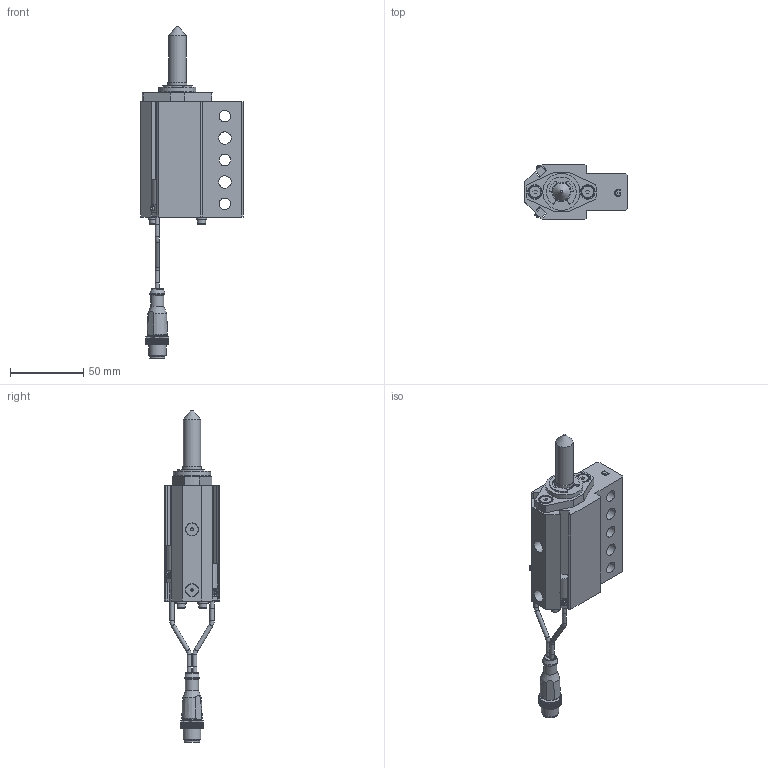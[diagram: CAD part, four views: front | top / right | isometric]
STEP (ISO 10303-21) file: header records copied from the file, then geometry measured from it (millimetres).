
FILE_DESCRIPTION(/* description */ ('NAAMS FLOATING MICRO PIN'),/* implementation_level */ '2;1');
FILE_NAME(/* name */ 'C:\Vault Workspace\CAD\Welker\Shot Pin\NMP\NMP120032AGNL3.stp',/* time_stamp */ '2021-01-27T10:38:01-05:00',/* author */ ('WELKER'),/* organization */ (''),/* preprocessor_version */ 'ST-DEVELOPER v18.1',/* originating_system */ 'Autodesk Inventor 2020',/* authorisation */ '');
FILE_SCHEMA (('AUTOMOTIVE_DESIGN { 1 0 10303 214 3 1 1 }'));
Length unit declared in the file: millimetre
Products named in the file (16): NMPL01; NMP L3 SWITCH; L3 Connector; L3 Sensor 1; L3 Sensor 2; L3 Sensor cable; L3 Sensor cable 2; M3X0.5-8 SHCS; NL3; NMPE06; NMPE03; NMPE05-DIA-LENGTH; 985432A218; NMPE01G-PORT; RMPE02; M5X5 SHOULDER
Assembly tree (22 placements, depth 3):
  NMPL01
    NMP L3 SWITCH
      L3 Connector
      L3 Sensor 1
      L3 Sensor 2
      L3 Sensor cable
      L3 Sensor cable 2
    M3X0.5-8 SHCS  x4
    NL3  x4
    NMPE06
    NMPE03
    NMPE05-DIA-LENGTH
    985432A218
    NMPE01G-PORT
    RMPE02
    M5X5 SHOULDER  x2
Bounding box: 70 x 38.1 x 227.12 mm (x, y, z)
Volume: 134719.2 mm3; surface area: 50291.3 mm2
Topology: 21 solids, 21 shells, 760 faces, 2090 edges, 1402 vertices
Faces by surface type: plane 546, cylinder 149, cone 35, bspline 16, torus 11, sphere 3
Full cylindrical faces by diameter (mm): 2 x2, 2.459 x4, 2.9 x10, 3 x5, 3.242 x2, 3.4 x4, 4 x2, 5 x6, 5.5 x4, 6.647 x2, 7 x4, 8 x5, 8.3 x2, 8.5 x2, 9 x3, 10 x3, 10.4 x1, 10.5 x1, 12 x2, 13 x3, 16 x2, 19.05 x3, 21 x1, 22.5 x1, 23.673 x1, 24 x1, 25.4 x1, 25.5 x1, 26.5 x1, 28.677 x1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
Entity records: 23785 total; most frequent: CARTESIAN_POINT 4688, ORIENTED_EDGE 3870, DIRECTION 3771, EDGE_CURVE 1935, LINE 1391, VECTOR 1391, VERTEX_POINT 1307, AXIS2_PLACEMENT_3D 1190
